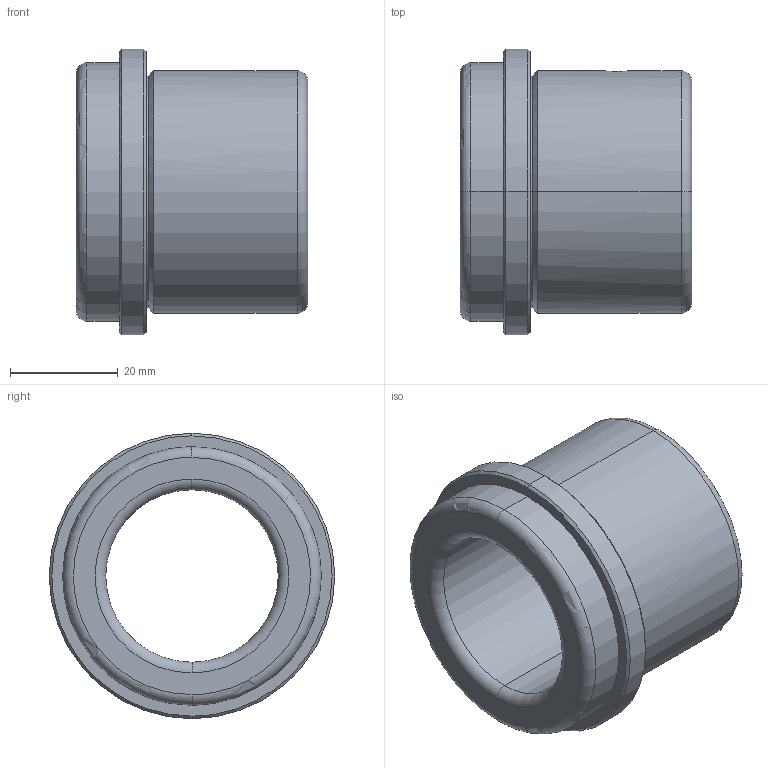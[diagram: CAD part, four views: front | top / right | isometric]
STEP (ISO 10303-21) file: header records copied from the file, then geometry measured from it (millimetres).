
FILE_DESCRIPTION(('CATIA V5 STEP Exchange'),'2;1');
FILE_NAME('C:\Users\Utente\Desktop\IO LAVORO\3D X SITO CF\X SITO\CF 631\CF 631 32 x 43.stp','2020-12-26T19:18:31+00:00',('none'),('none'),'CATIA Version 5 Release 20 GA (IN-10)','CATIA V5 STEP AP203','none');
FILE_SCHEMA(('CONFIG_CONTROL_DESIGN'));
Length unit declared in the file: millimetre
Products named in the file (1): CF 631 32 x 43
Bounding box: 43 x 53 x 53 mm (x, y, z)
Volume: 37647.8 mm3; surface area: 13334.1 mm2
Topology: 1 solids, 1 shells, 33 faces, 106 edges, 78 vertices
Faces by surface type: cylinder 12, torus 8, cone 8, plane 5
Entity records: 1429 total; most frequent: CARTESIAN_POINT 453, ORIENTED_EDGE 212, DIRECTION 156, EDGE_CURVE 106, AXIS2_PLACEMENT_3D 104, VERTEX_POINT 78, CIRCLE 70, EDGE_LOOP 40
